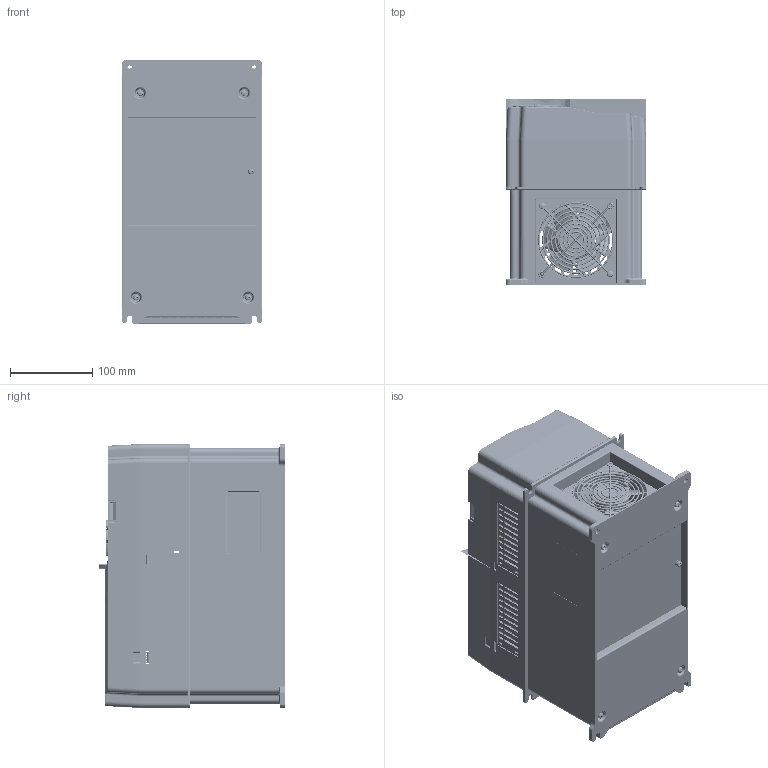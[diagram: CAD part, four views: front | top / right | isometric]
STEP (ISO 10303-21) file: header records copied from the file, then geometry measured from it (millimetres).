
FILE_DESCRIPTION(('HD2-25A-43-UL'),'2;1');
FILE_NAME('HD2-25A-43-UL_ASM','2021-05-25T15:21:55',('IMO'),(''),'CREO PARAMETRIC BY PTC INC, 2019080','CREO PARAMETRIC BY PTC INC, 2019080','');
FILE_SCHEMA(('AUTOMOTIVE_DESIGN { 1 0 10303 214 1 1 1 1 }'));
Products named in the file (43): 80740009; DRIVE_PCBA_11KW; TB1000-05_ASM; PCB_TERMINAL_01; DRIVE_PCBA_11KW_ASM; FAN_92; FENGSHANWANG; 80310003; GB9074_8_M4X45_ZC; 80810004SY; 40800027_ASM; 80740178; PA1704_CT1_A2; E-DIN0309-5_08MM-TA; E-DIN0302-5_08MM-TA; PA1704_CT1_A2_ASM; 0_HD2_PCB_ASM; 80780073; 80810121; 80810122; 80740163; 80740162; 80880456; 80880456SY; 40810091_ASM; 80740164; 80740164SY; 80880455; CR2032_BAR_COVER; CR2032; 36002-00065; HD2-LCD; 80780075; 39009-00082; KEY-LCD01-ZY-350-ES_ASM; KEY-LCD01-ZY-350_ASM; 80880485; 77340010; GB9074_8_M4X12_ZC; GB9074_8_M4X10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
Assembly tree (60 placements, depth 4):
  HD2-25A-43-UL_ASM
    80740009
    DRIVE_PCBA_11KW_ASM
      DRIVE_PCBA_11KW
      TB1000-05_ASM
      PCB_TERMINAL_01  x2
    FAN_92
    FENGSHANWANG
    80310003
    GB9074_8_M4X45_ZC  x2
    80810004SY
    40800027_ASM
    80740178
    0_HD2_PCB_ASM
      PA1704_CT1_A2_ASM
        PA1704_CT1_A2
        E-DIN0309-5_08MM-TA
        E-DIN0302-5_08MM-TA
    80780073
    80810121
    80810122
    KEY-LCD01-ZY-350_ASM
      80740163
      40810091_ASM
        80740162
        80880456
        80880456SY
      80740164
      80740164SY
      80880455
      KEY-LCD01-ZY-350-ES_ASM
        CR2032_BAR_COVER
        CR2032
        36002-00065
        HD2-LCD
        80780075
        39009-00082
    80880485
    FS-011G-UL_ASM
      77340010
      GB9074_8_M4X12_ZC  x9
      GB9074_8_M4X10  x8
      GB9074_13_M5X12_ZC  x2
Bounding box: 170 x 225.3 x 320 mm (x, y, z)
Volume: 1465372.8 mm3; surface area: 1331833.8 mm2
Topology: 54 solids, 57 shells, 13774 faces, 38687 edges, 25104 vertices
Faces by surface type: plane 7443, cylinder 4571, torus 461, bspline 448, extrusion 438, cone 300, sphere 97, revolution 16
Entity records: 579315 total; most frequent: CARTESIAN_POINT 116864, ORIENTED_EDGE 74360, DIRECTION 69607, EDGE_CURVE 37188, PRESENTATION_STYLE_ASSIGNMENT 34523, STYLED_ITEM 33853, CURVE_STYLE 33555, VECTOR 25243
